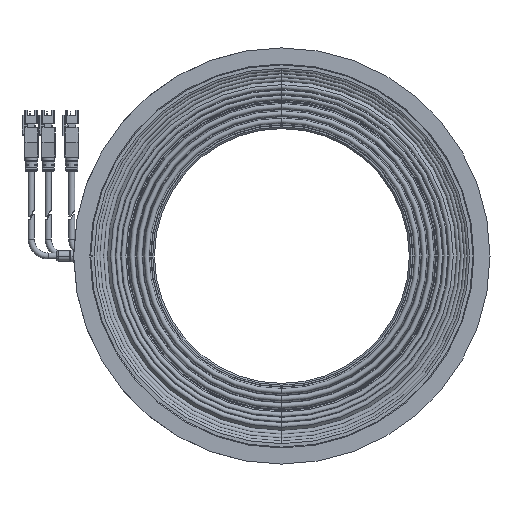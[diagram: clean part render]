
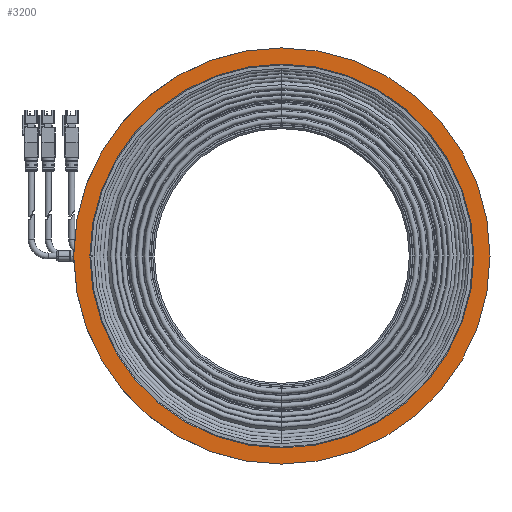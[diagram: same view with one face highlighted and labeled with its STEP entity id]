
A CAD part, front view. The second image highlights one B-rep face of the part: STEP entity #3200.
In plain terms, the highlighted planar face has unit normal (0, -1, 0).
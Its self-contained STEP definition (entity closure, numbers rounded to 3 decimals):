
#383 = DIRECTION ( 'NONE',  ( 0., -1., 0. ) ) ;
#705 = DIRECTION ( 'NONE',  ( 0., 0., -1. ) ) ;
#856 = CARTESIAN_POINT ( 'NONE',  ( 0., 633.347, 0. ) ) ;
#2133 = CIRCLE ( 'NONE', #19840, 122.501 ) ;
#3200 = ADVANCED_FACE ( 'NONE', ( #32144, #31041 ), #35913, .T. ) ;
#4102 = CIRCLE ( 'NONE', #10679, 113.001 ) ;
#4480 = DIRECTION ( 'NONE',  ( 0., 0., -1. ) ) ;
#5664 = AXIS2_PLACEMENT_3D ( 'NONE', #856, #383, #705 ) ;
#5826 = VERTEX_POINT ( 'NONE', #29588 ) ;
#7017 = DIRECTION ( 'NONE',  ( 0., -1., 0. ) ) ;
#9016 = DIRECTION ( 'NONE',  ( 0., 0., -1. ) ) ;
#9466 = EDGE_CURVE ( 'NONE', #5826, #23420, #2133, .T. ) ;
#10679 = AXIS2_PLACEMENT_3D ( 'NONE', #21550, #43017, #22007 ) ;
#13976 = DIRECTION ( 'NONE',  ( 0., 0., -1. ) ) ;
#14691 = EDGE_CURVE ( 'NONE', #23420, #5826, #20215, .T. ) ;
#14928 = EDGE_LOOP ( 'NONE', ( #31515, #31131 ) ) ;
#17695 = CARTESIAN_POINT ( 'NONE',  ( 457.552, 633.347, 0. ) ) ;
#17700 = AXIS2_PLACEMENT_3D ( 'NONE', #19151, #18996, #4480 ) ;
#18027 = CARTESIAN_POINT ( 'NONE',  ( 457.552, 633.347, 122.501 ) ) ;
#18996 = DIRECTION ( 'NONE',  ( 0., -1., 0. ) ) ;
#19151 = CARTESIAN_POINT ( 'NONE',  ( 457.552, 633.347, 0. ) ) ;
#19349 = CARTESIAN_POINT ( 'NONE',  ( 457.552, 633.347, 0. ) ) ;
#19840 = AXIS2_PLACEMENT_3D ( 'NONE', #17695, #7017, #13976 ) ;
#20215 = CIRCLE ( 'NONE', #17700, 122.501 ) ;
#21055 = ORIENTED_EDGE ( 'NONE', *, *, #9466, .T. ) ;
#21550 = CARTESIAN_POINT ( 'NONE',  ( 457.552, 633.347, 0. ) ) ;
#22007 = DIRECTION ( 'NONE',  ( 0., 0., -1. ) ) ;
#23420 = VERTEX_POINT ( 'NONE', #18027 ) ;
#24159 = EDGE_CURVE ( 'NONE', #24878, #30239, #4102, .T. ) ;
#24306 = EDGE_LOOP ( 'NONE', ( #21055, #27272 ) ) ;
#24484 = CARTESIAN_POINT ( 'NONE',  ( 457.552, 633.347, -113.001 ) ) ;
#24878 = VERTEX_POINT ( 'NONE', #24484 ) ;
#25820 = AXIS2_PLACEMENT_3D ( 'NONE', #19349, #26224, #9016 ) ;
#26224 = DIRECTION ( 'NONE',  ( 0., -1., 0. ) ) ;
#27272 = ORIENTED_EDGE ( 'NONE', *, *, #14691, .T. ) ;
#27864 = CIRCLE ( 'NONE', #25820, 113.001 ) ;
#29588 = CARTESIAN_POINT ( 'NONE',  ( 457.552, 633.347, -122.501 ) ) ;
#30239 = VERTEX_POINT ( 'NONE', #45630 ) ;
#31041 = FACE_BOUND ( 'NONE', #14928, .T. ) ;
#31131 = ORIENTED_EDGE ( 'NONE', *, *, #43327, .F. ) ;
#31515 = ORIENTED_EDGE ( 'NONE', *, *, #24159, .F. ) ;
#32144 = FACE_OUTER_BOUND ( 'NONE', #24306, .T. ) ;
#35913 = PLANE ( 'NONE',  #5664 ) ;
#43017 = DIRECTION ( 'NONE',  ( 0., -1., 0. ) ) ;
#43327 = EDGE_CURVE ( 'NONE', #30239, #24878, #27864, .T. ) ;
#45630 = CARTESIAN_POINT ( 'NONE',  ( 457.552, 633.347, 113.001 ) ) ;
